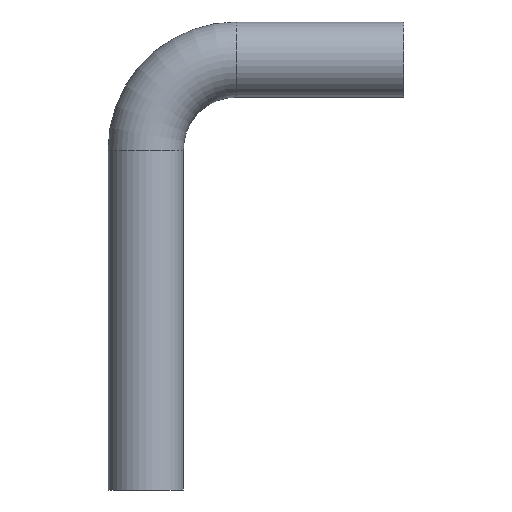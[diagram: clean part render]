
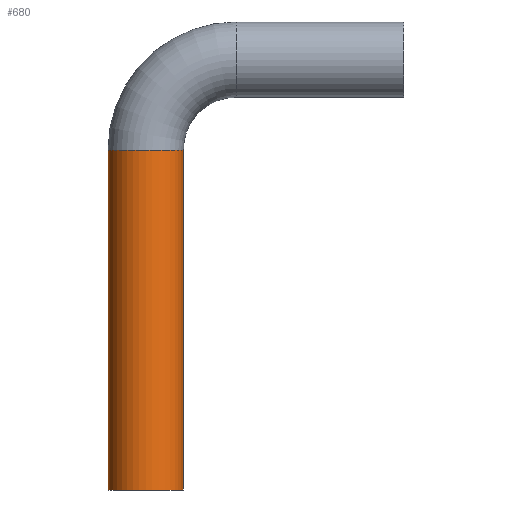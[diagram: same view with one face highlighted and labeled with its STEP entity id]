
A CAD part, front view. The second image highlights one B-rep face of the part: STEP entity #680.
In plain terms, the highlighted cylindrical face has radius 17.5 mm (diameter 35 mm), a partial arc.
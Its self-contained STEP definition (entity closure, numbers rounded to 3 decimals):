
#210=CARTESIAN_POINT('',(50.717,48.566,0.));
#220=DIRECTION('',(0.,0.,1.));
#230=DIRECTION('',(1.,0.,0.));
#240=AXIS2_PLACEMENT_3D('',#210,#220,#230);
#250=CIRCLE('',#240,17.5);
#260=CARTESIAN_POINT('',(68.217,48.566,0.));
#270=VERTEX_POINT('',#260);
#280=CARTESIAN_POINT('',(33.217,48.566,0.));
#290=VERTEX_POINT('',#280);
#320=EDGE_CURVE('',#290,#270,#250,.T.);
#370=CARTESIAN_POINT('',(50.717,48.566,0.));
#380=DIRECTION('',(0.,0.,1.));
#390=DIRECTION('',(1.,0.,0.));
#400=AXIS2_PLACEMENT_3D('',#370,#380,#390);
#410=CYLINDRICAL_SURFACE('',#400,17.5);
#420=CARTESIAN_POINT('',(68.217,48.566,0.));
#430=DIRECTION('',(0.,0.,1.));
#440=VECTOR('',#430,1.);
#450=LINE('',#420,#440);
#460=CARTESIAN_POINT('',(68.217,48.566,158.));
#470=VERTEX_POINT('',#460);
#480=EDGE_CURVE('',#270,#470,#450,.T.);
#490=ORIENTED_EDGE('',*,*,#480,.T.);
#500=ORIENTED_EDGE('',*,*,#320,.T.);
#510=CARTESIAN_POINT('',(33.217,48.566,0.));
#520=DIRECTION('',(0.,0.,1.));
#530=VECTOR('',#520,1.);
#540=LINE('',#510,#530);
#550=CARTESIAN_POINT('',(33.217,48.566,158.));
#560=VERTEX_POINT('',#550);
#570=EDGE_CURVE('',#290,#560,#540,.T.);
#580=ORIENTED_EDGE('',*,*,#570,.F.);
#590=CARTESIAN_POINT('',(50.717,48.566,158.));
#600=DIRECTION('',(0.,0.,1.));
#610=DIRECTION('',(1.,0.,0.));
#620=AXIS2_PLACEMENT_3D('',#590,#600,#610);
#630=CIRCLE('',#620,17.5);
#640=EDGE_CURVE('',#560,#470,#630,.T.);
#650=ORIENTED_EDGE('',*,*,#640,.F.);
#660=EDGE_LOOP('',(#650,#580,#500,#490));
#670=FACE_OUTER_BOUND('',#660,.T.);
#680=ADVANCED_FACE('',(#670),#410,.T.);
